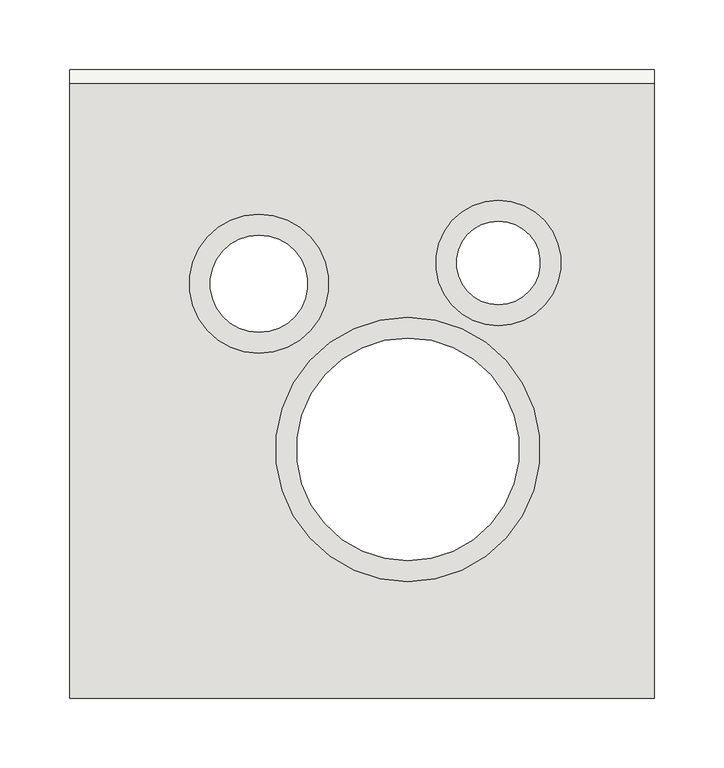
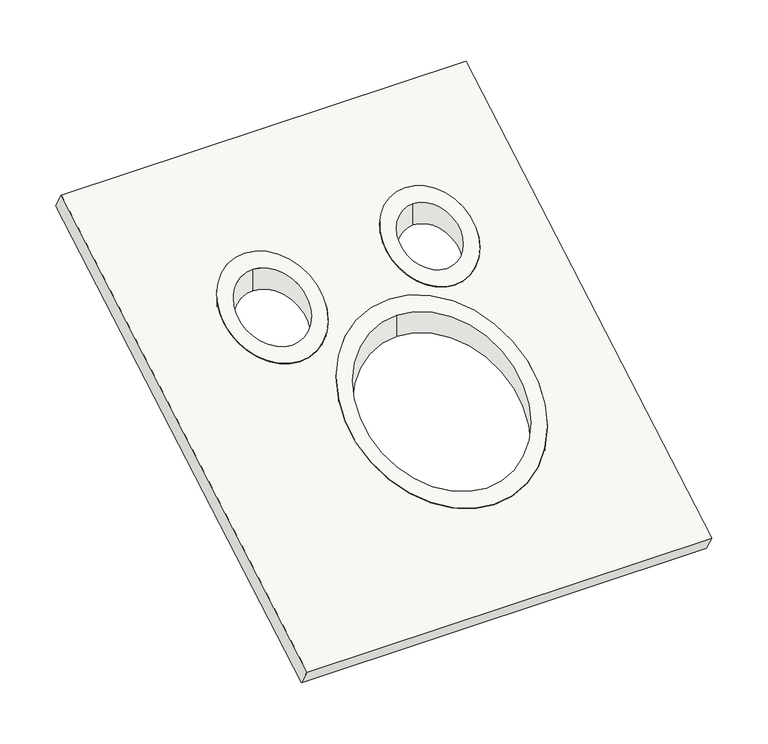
"""IFC4 building model written with IfcOpenShell, lengths in millimetres: covering geometry, MG_BPC_Mini Delta _roofboard_M&G : roofboard Mini-Delta."""

from ifc_helpers import new_model, si_unit, frame, origin, place, context, project, spatial, polyline, ellipse_curve, source, transform, mapped, element, save
from ifc_brep_helpers import plane_surface, cylinder_surface, revolved_surface, advanced_brep


def covering_9608ff47(model_context):
    return source(origin(), model_context, "Body", "AdvancedBrep", [
        advanced_brep(
        [(33.0, 38.0, -1.1547005), (33.0, -122.0, -93.5307436), (33.0, -122.0, -70.4367328), (33.0, 38.0, 21.9393102), (33.0, -137.0, -102.1909976), (33.0, 53.0, 7.5055535), (33.0, 53.0, 30.5995643), (33.0, -137.0, -79.0969869)],
        [
            (0, 1, ellipse_curve(frame((33.0, -42.0, -47.3427221), z_axis=(0.0, 0.4999999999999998, -0.8660254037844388), x_axis=(0.0, -0.866025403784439, -0.49999999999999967)), 92.3760431, 80.0)),
            (1, 2),
            (2, 3, ellipse_curve(frame((33.0, -42.0, -24.2487113), z_axis=(0.0, -0.4999999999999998, 0.8660254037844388), x_axis=(0.0, -0.866025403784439, -0.49999999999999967)), 92.3760431, 80.0)),
            (3, 0),
            (1, 0, ellipse_curve(frame((33.0, -42.0, -47.3427221), z_axis=(0.0, 0.4999999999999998, -0.8660254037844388), x_axis=(0.0, -0.866025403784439, -0.49999999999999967)), 92.3760431, 80.0)),
            (3, 2, ellipse_curve(frame((33.0, -42.0, -24.2487113), z_axis=(0.0, -0.4999999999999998, 0.8660254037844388), x_axis=(0.0, -0.866025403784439, -0.49999999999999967)), 92.3760431, 80.0)),
            (4, 5, ellipse_curve(frame((33.0, -42.0, -47.3427221), z_axis=(0.0, -0.4999999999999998, 0.8660254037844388), x_axis=(0.0, 0.866025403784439, 0.49999999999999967)), 109.6965511, 95.0)),
            (5, 6),
            (6, 7, ellipse_curve(frame((33.0, -42.0, -24.2487113), z_axis=(0.0, 0.4999999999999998, -0.8660254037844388), x_axis=(0.0, 0.866025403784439, 0.49999999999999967)), 109.6965511, 95.0)),
            (7, 4),
            (5, 4, ellipse_curve(frame((33.0, -42.0, -47.3427221), z_axis=(0.0, -0.4999999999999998, 0.8660254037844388), x_axis=(0.0, 0.866025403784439, 0.49999999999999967)), 109.6965511, 95.0)),
            (7, 6, ellipse_curve(frame((33.0, -42.0, -24.2487113), z_axis=(0.0, 0.4999999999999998, -0.8660254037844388), x_axis=(0.0, 0.866025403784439, 0.49999999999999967)), 109.6965511, 95.0)),
        ],
        [
            revolved_surface(polyline([(33.0, 38.0, -93.53074364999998), (33.0, 38.0, 21.939310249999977)]), (33.0, -42.0, -200.0), (0.0, 0.0, -1.0)),
            cylinder_surface(frame((33.0, -42.0, 0.0), z_axis=(0.0, 0.0, 1.0), x_axis=(0.0, 1.0, 0.0)), 95.0),
            plane_surface(frame((210.0, -210.836478, -144.8205081), z_axis=(0.0, 0.4999999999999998, -0.8660254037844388), x_axis=(0.0, 0.8660254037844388, 0.4999999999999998))),
            plane_surface(frame((210.0, -220.836478, -127.5), z_axis=(0.0, -0.4999999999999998, 0.8660254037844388), x_axis=(0.0, -0.8660254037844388, -0.4999999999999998))),
        ],
        [
            (0, [[1, 2, 3, 4]]),
            (0, [[5, -4, 6, -2]]),
            (1, [[7, 8, 9, 10]]),
            (1, [[11, -10, 12, -8]]),
            (2, [[-7, -11], [-1, -5]]),
            (3, [[-9, -12], [-3, -6]]),
        ],
    ),
        advanced_brep(
        [(98.0, 122.0, 47.3427221), (98.0, 62.0, 12.7017059), (98.0, 62.0, 35.7957167), (98.0, 122.0, 70.4367328), (98.0, 47.0, 4.0414519), (98.0, 137.0, 56.0029761), (98.0, 137.0, 79.0969869), (98.0, 47.0, 27.1354627)],
        [
            (0, 1, ellipse_curve(frame((98.0, 92.0, 30.022214), z_axis=(0.0, 0.4999999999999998, -0.8660254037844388), x_axis=(0.0, -0.866025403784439, -0.49999999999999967)), 34.6410162, 30.0)),
            (1, 2),
            (2, 3, ellipse_curve(frame((98.0, 92.0, 53.1162248), z_axis=(0.0, -0.4999999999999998, 0.8660254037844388), x_axis=(0.0, -0.866025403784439, -0.49999999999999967)), 34.6410162, 30.0)),
            (3, 0),
            (1, 0, ellipse_curve(frame((98.0, 92.0, 30.022214), z_axis=(0.0, 0.4999999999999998, -0.8660254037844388), x_axis=(0.0, -0.866025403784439, -0.49999999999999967)), 34.6410162, 30.0)),
            (3, 2, ellipse_curve(frame((98.0, 92.0, 53.1162248), z_axis=(0.0, -0.4999999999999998, 0.8660254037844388), x_axis=(0.0, -0.866025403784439, -0.49999999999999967)), 34.6410162, 30.0)),
            (4, 5, ellipse_curve(frame((98.0, 92.0, 30.022214), z_axis=(0.0, -0.4999999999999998, 0.8660254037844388), x_axis=(0.0, 0.866025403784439, 0.49999999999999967)), 51.9615242, 45.0)),
            (5, 6),
            (6, 7, ellipse_curve(frame((98.0, 92.0, 53.1162248), z_axis=(0.0, 0.4999999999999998, -0.8660254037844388), x_axis=(0.0, 0.866025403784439, 0.49999999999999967)), 51.9615242, 45.0)),
            (7, 4),
            (5, 4, ellipse_curve(frame((98.0, 92.0, 30.022214), z_axis=(0.0, -0.4999999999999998, 0.8660254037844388), x_axis=(0.0, 0.866025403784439, 0.49999999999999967)), 51.9615242, 45.0)),
            (7, 6, ellipse_curve(frame((98.0, 92.0, 53.1162248), z_axis=(0.0, 0.4999999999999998, -0.8660254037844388), x_axis=(0.0, 0.866025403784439, 0.49999999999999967)), 51.9615242, 45.0)),
        ],
        [
            revolved_surface(polyline([(98.0, 122.0, 12.701705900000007), (98.0, 122.0, 70.43673289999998)]), (98.0, 92.0, -200.0), (0.0, 0.0, -1.0)),
            cylinder_surface(frame((98.0, 92.0, 0.0), z_axis=(0.0, 0.0, 1.0), x_axis=(0.0, 1.0, 0.0)), 45.0),
            plane_surface(frame((210.0, -210.836478, -144.8205081), z_axis=(0.0, 0.4999999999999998, -0.8660254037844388), x_axis=(0.0, 0.8660254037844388, 0.4999999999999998))),
            plane_surface(frame((210.0, -220.836478, -127.5), z_axis=(0.0, -0.4999999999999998, 0.8660254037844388), x_axis=(0.0, -0.8660254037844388, -0.4999999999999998))),
        ],
        [
            (0, [[1, 2, 3, 4]]),
            (0, [[5, -4, 6, -2]]),
            (1, [[7, 8, 9, 10]]),
            (1, [[11, -10, 12, -8]]),
            (2, [[-7, -11], [-1, -5]]),
            (3, [[-9, -12], [-3, -6]]),
        ],
    ),
        advanced_brep(
        [(-74.0, 42.0, 24.2487113), (-74.0, 112.0, 64.6632301), (-74.0, 112.0, 41.5692194), (-74.0, 42.0, 1.1547005), (-74.0, 127.0, 73.3234842), (-74.0, 27.0, 15.5884573), (-74.0, 27.0, -7.5055535), (-74.0, 127.0, 50.2294734)],
        [
            (0, 1, ellipse_curve(frame((-74.0, 77.0, 44.4559707), z_axis=(0.0, -0.4999999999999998, 0.8660254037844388), x_axis=(0.0, -0.866025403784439, -0.49999999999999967)), 40.4145188, 35.0)),
            (1, 2),
            (2, 3, ellipse_curve(frame((-74.0, 77.0, 21.36196), z_axis=(0.0, 0.4999999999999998, -0.8660254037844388), x_axis=(0.0, -0.866025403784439, -0.49999999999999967)), 40.4145188, 35.0)),
            (3, 0),
            (1, 0, ellipse_curve(frame((-74.0, 77.0, 44.4559707), z_axis=(0.0, -0.4999999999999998, 0.8660254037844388), x_axis=(0.0, -0.866025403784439, -0.49999999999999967)), 40.4145188, 35.0)),
            (3, 2, ellipse_curve(frame((-74.0, 77.0, 21.36196), z_axis=(0.0, 0.4999999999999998, -0.8660254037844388), x_axis=(0.0, -0.866025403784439, -0.49999999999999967)), 40.4145188, 35.0)),
            (4, 5, ellipse_curve(frame((-74.0, 77.0, 44.4559707), z_axis=(0.0, 0.4999999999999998, -0.8660254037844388), x_axis=(0.0, 0.866025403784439, 0.49999999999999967)), 57.7350269, 50.0)),
            (5, 6),
            (6, 7, ellipse_curve(frame((-74.0, 77.0, 21.36196), z_axis=(0.0, -0.4999999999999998, 0.8660254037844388), x_axis=(0.0, 0.866025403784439, 0.49999999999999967)), 57.7350269, 50.0)),
            (7, 4),
            (5, 4, ellipse_curve(frame((-74.0, 77.0, 44.4559707), z_axis=(0.0, 0.4999999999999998, -0.8660254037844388), x_axis=(0.0, 0.866025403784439, 0.49999999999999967)), 57.7350269, 50.0)),
            (7, 6, ellipse_curve(frame((-74.0, 77.0, 21.36196), z_axis=(0.0, -0.4999999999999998, 0.8660254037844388), x_axis=(0.0, 0.866025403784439, 0.49999999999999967)), 57.7350269, 50.0)),
        ],
        [
            revolved_surface(polyline([(-74.0, 112.0, 1.15470049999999), (-74.0, 112.0, 64.66323010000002)]), (-74.0, 77.0, -200.0), (0.0, 0.0, -1.0)),
            cylinder_surface(frame((-74.0, 77.0, 0.0), z_axis=(0.0, 0.0, 1.0), x_axis=(0.0, 1.0, 0.0)), 50.0),
            plane_surface(frame((210.0, -220.836478, -127.5), z_axis=(0.0, -0.4999999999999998, 0.8660254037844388), x_axis=(0.0, -0.8660254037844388, -0.4999999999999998))),
            plane_surface(frame((210.0, -210.836478, -144.8205081), z_axis=(0.0, 0.4999999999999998, -0.8660254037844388), x_axis=(0.0, 0.8660254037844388, 0.4999999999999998))),
        ],
        [
            (0, [[1, 2, 3, 4]]),
            (0, [[5, -4, 6, -2]]),
            (1, [[7, 8, 9, 10]]),
            (1, [[11, -10, 12, -8]]),
            (2, [[-7, -11], [-1, -5]]),
            (3, [[-9, -12], [-3, -6]]),
        ],
    ),
        advanced_brep(
        [(210.0, -210.836478, -144.8205081), (-210.0, -210.836478, -144.8205081), (-210.0, 230.836478, 110.1794919), (210.0, 230.836478, 110.1794919), (33.0, -137.0, -102.1909976), (33.0, 53.0, 7.5055535), (-74.0, 27.0, -7.5055535), (-74.0, 127.0, 50.2294734), (98.0, 47.0, 4.0414519), (98.0, 137.0, 56.0029761), (210.0, -220.836478, -127.5), (210.0, 220.836478, 127.5), (-210.0, 220.836478, 127.5), (-210.0, -220.836478, -127.5), (33.0, 53.0, 30.5995643), (33.0, -137.0, -79.0969869), (-74.0, 127.0, 73.3234842), (-74.0, 27.0, 15.5884573), (98.0, 137.0, 79.0969869), (98.0, 47.0, 27.1354627)],
        [
            (0, 1),
            (1, 2),
            (2, 3),
            (3, 0),
            (4, 5, ellipse_curve(frame((33.0, -42.0, -47.3427221), z_axis=(0.0, -0.4999999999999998, 0.8660254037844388), x_axis=(0.0, 0.866025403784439, 0.49999999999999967)), 109.6965511, 95.0)),
            (5, 4, ellipse_curve(frame((33.0, -42.0, -47.3427221), z_axis=(0.0, -0.4999999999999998, 0.8660254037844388), x_axis=(0.0, 0.866025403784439, 0.49999999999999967)), 109.6965511, 95.0)),
            (6, 7, ellipse_curve(frame((-74.0, 77.0, 21.36196), z_axis=(0.0, -0.4999999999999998, 0.8660254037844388), x_axis=(0.0, 0.866025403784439, 0.49999999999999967)), 57.7350269, 50.0)),
            (7, 6, ellipse_curve(frame((-74.0, 77.0, 21.36196), z_axis=(0.0, -0.4999999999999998, 0.8660254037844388), x_axis=(0.0, 0.866025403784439, 0.49999999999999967)), 57.7350269, 50.0)),
            (8, 9, ellipse_curve(frame((98.0, 92.0, 30.022214), z_axis=(0.0, -0.4999999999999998, 0.8660254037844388), x_axis=(0.0, 0.866025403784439, 0.49999999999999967)), 51.9615242, 45.0)),
            (9, 8, ellipse_curve(frame((98.0, 92.0, 30.022214), z_axis=(0.0, -0.4999999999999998, 0.8660254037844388), x_axis=(0.0, 0.866025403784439, 0.49999999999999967)), 51.9615242, 45.0)),
            (10, 11),
            (11, 12),
            (12, 13),
            (13, 10),
            (14, 15, ellipse_curve(frame((33.0, -42.0, -24.2487113), z_axis=(0.0, 0.4999999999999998, -0.8660254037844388), x_axis=(0.0, 0.866025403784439, 0.49999999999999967)), 109.6965511, 95.0)),
            (15, 14, ellipse_curve(frame((33.0, -42.0, -24.2487113), z_axis=(0.0, 0.4999999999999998, -0.8660254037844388), x_axis=(0.0, 0.866025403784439, 0.49999999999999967)), 109.6965511, 95.0)),
            (16, 17, ellipse_curve(frame((-74.0, 77.0, 44.4559707), z_axis=(0.0, 0.4999999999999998, -0.8660254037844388), x_axis=(0.0, 0.866025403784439, 0.49999999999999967)), 57.7350269, 50.0)),
            (17, 16, ellipse_curve(frame((-74.0, 77.0, 44.4559707), z_axis=(0.0, 0.4999999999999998, -0.8660254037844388), x_axis=(0.0, 0.866025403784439, 0.49999999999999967)), 57.7350269, 50.0)),
            (18, 19, ellipse_curve(frame((98.0, 92.0, 53.1162248), z_axis=(0.0, 0.4999999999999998, -0.8660254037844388), x_axis=(0.0, 0.866025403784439, 0.49999999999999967)), 51.9615242, 45.0)),
            (19, 18, ellipse_curve(frame((98.0, 92.0, 53.1162248), z_axis=(0.0, 0.4999999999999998, -0.8660254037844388), x_axis=(0.0, 0.866025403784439, 0.49999999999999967)), 51.9615242, 45.0)),
            (3, 11),
            (10, 0),
            (2, 12),
            (1, 13),
            (4, 15),
            (14, 5),
            (8, 19),
            (18, 9),
            (6, 17),
            (16, 7),
        ],
        [
            plane_surface(frame((210.0, -210.836478, -144.8205081), z_axis=(0.0, 0.4999999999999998, -0.8660254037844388), x_axis=(0.0, -0.8660254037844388, -0.4999999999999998))),
            plane_surface(frame((210.0, -220.836478, -127.5), z_axis=(0.0, -0.4999999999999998, 0.8660254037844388), x_axis=(0.0, 0.8660254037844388, 0.4999999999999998))),
            plane_surface(frame((210.0, -220.836478, -127.5), z_axis=(1.0, 0.0, 0.0), x_axis=(0.0, 0.5000000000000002, -0.8660254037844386))),
            plane_surface(frame((210.0, 220.836478, 127.5), z_axis=(0.0, 0.8660254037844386, 0.5000000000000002), x_axis=(0.0, 0.5000000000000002, -0.8660254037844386))),
            plane_surface(frame((-210.0, 220.836478, 127.5), z_axis=(-1.0, 0.0, 0.0), x_axis=(0.0, 0.5000000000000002, -0.8660254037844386))),
            plane_surface(frame((-210.0, -220.836478, -127.5), z_axis=(0.0, -0.8660254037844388, -0.49999999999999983), x_axis=(0.0, 0.49999999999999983, -0.8660254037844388))),
            revolved_surface(polyline([(33.0, 53.0, 30.599564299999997), (33.0, 53.0, -102.19099764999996)]), (33.0, -42.0, -350.0), (0.0, 0.0, 1.0)),
            revolved_surface(polyline([(98.0, 137.0, 79.09698689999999), (98.0, 137.0, 4.041451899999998)]), (98.0, 92.0, -200.0), (0.0, 0.0, 1.0)),
            revolved_surface(polyline([(-74.0, 127.0, 73.3234842), (-74.0, 127.0, -7.505553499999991)]), (-74.0, 77.0, -200.0), (0.0, 0.0, 1.0)),
        ],
        [
            (0, [[1, 2, 3, 4], [5, 6], [7, 8], [9, 10]]),
            (1, [[11, 12, 13, 14], [15, 16], [17, 18], [19, 20]]),
            (2, [[-4, 21, -11, 22]]),
            (3, [[-3, 23, -12, -21]]),
            (4, [[-2, 24, -13, -23]]),
            (5, [[-1, -22, -14, -24]]),
            (6, [[25, -15, 26, -5]]),
            (6, [[-25, -6, -26, -16]]),
            (7, [[27, -19, 28, -9]]),
            (7, [[-27, -10, -28, -20]]),
            (8, [[29, -17, 30, -7]]),
            (8, [[-29, -8, -30, -18]]),
        ],
    ),
    ])


if __name__ == "__main__":
    model = new_model("IFC4")
    model_context = context("Model", 3, world=origin())
    ifc_project = project(units=[si_unit("LENGTHUNIT", "METRE", prefix="MILLI")], contexts=[model_context])
    site = spatial("IfcSite", under=ifc_project)
    building = spatial("IfcBuilding", under=site)
    placement = place(None, origin())
    covering_shape = covering_9608ff47(model_context)
    element("IfcCovering", 1, ObjectType="MG_BPC_Mini Delta _roofboard_M&G : roofboard Mini-Delta", at=placement, inside=building, context=model_context, shape_type="MappedRepresentation", body=[
        mapped(covering_shape, transform((0.0, 0.0, 0.0), x_axis=(1.0, 0.0, 0.0), y_axis=(0.0, 1.0, 0.0), z_axis=(0.0, 0.0, 1.0))),
    ])
    save(model, "model.ifc")
